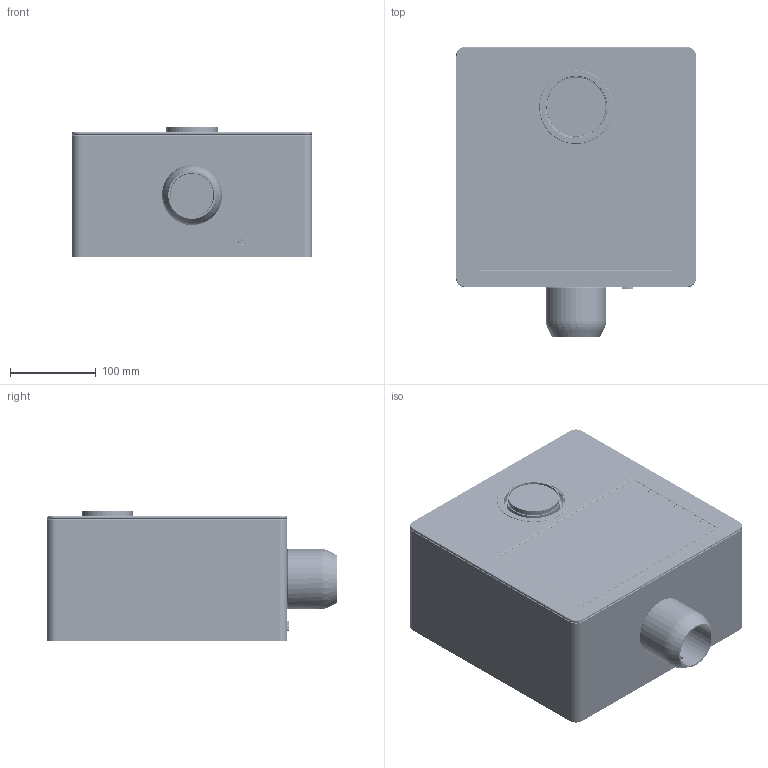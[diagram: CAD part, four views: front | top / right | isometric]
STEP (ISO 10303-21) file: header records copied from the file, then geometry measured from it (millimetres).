
FILE_DESCRIPTION (( 'STEP AP214' ), '1' );
FILE_NAME ('booth-100-000_dslr-10inch.STEP', '2024-09-13T18:04:41', ( '' ), ( '' ), 'SwSTEP 2.0', 'SolidWorks 2024', '' );
FILE_SCHEMA (( 'AUTOMOTIVE_DESIGN' ));
Length unit declared in the file: millimetre
Products named in the file (47): USB-C for REF; 093-104INCH_HDMI-PCBA-0609; PCIe for REF; EN ISO 4762 M3 x 10 - 10N_EN ISO 4762 M3 x 10 - 10N; BAT Header for REF; DIN 912 M3 x 10 --- 10N_DIN 912 M3 x 10 --- 10N; PoE Header for REF; GPIO Header for REF; CAM-DISP for REF; booth-100-000_dslr-10inch; booth-100-110_003; UART for REF; led-ring-5v-rgb-27-38mm_24bit-73-85; USB for REF; 8-101INCH-HDMI-PCBA-20220613_ASM; LED for REF; Canon_Rebel_T3i-mod; FAN Header for REF; booth-300-000; KEY-2X4_5X3_5-618D5DA4; booth-100-000_001_deep; booth-100-000_015; J3_USER_LIBRARY-SM02B-BHSS-1-TB; 101INCH-JYM1015853281BB; Micro HDMI for REF; 101INCH-800X1280-TP; booth-101-000_dslr-10inch; booth-100-000_100; booth-100-000_006_M3-5,7-4,6; Jack carica; 10_1DP-CAPLCD; booth-200-000; booth-100-000_011; SD CARD for REF; 101INCH-LCD-PCBA-FPC; booth-100-000_002; booth-100-000_003_dslr-10inch; RaspberryPi5; PCB_for REF 060923; EVA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
Assembly tree (68 placements, depth 7):
  booth-100-000_dslr-10inch
    booth-101-000_dslr-10inch
      booth-100-000_003_dslr-10inch
      screen_ws-10.1dp-caplcd
        10_1DP-CAPLCD
          8-101INCH-HDMI-PCBA-20220613_ASM
            101INCH-800H_1280V-0428_ASM
              101INCH-JYM1015853281BB
              101INCH-800X1280-TP
            093-104INCH_HDMI-PCBA-0609
            KEY-2X4_5X3_5-618D5DA4
            J3_USER_LIBRARY-SM02B-BHSS-1-TB
            101INCH-LCD-PCBA-FPC
            EVA
        booth-100-000_011
        EN ISO 4762 M3 x 10 - 10N_EN ISO 4762 M3 x 10 - 10N  x4
        EN ISO 4762 M3 x 6 - 6N_EN ISO 4762 M3 x 6 - 6N  x4
      booth-100-120
        Canon_Rebel_T3i-mod
        booth-100-000_100
        DIN 912 M3 x 10 --- 10N_DIN 912 M3 x 10 --- 10N  x4
      booth-100-110_003
      led-ring-5v-rgb-27-38mm_24bit-73-85
      RaspberryPi5
        PCB_for REF 060923
        GPIO Header for REF
        Micro HDMI for REF  x2
        SD CARD for REF
        USB-C for REF
        RJ45 for REF
        USB for REF  x2
        PCIe for REF
        CAM-DISP for REF  x2
        LED for REF
        BAT Header for REF
        PoE Header for REF
        FAN Header for REF
        SWITCH for REF
        UART for REF
      booth-100-000_006_M3-5,7-4,6  x4
    booth-200-000
      booth-100-000_001_deep
      Jack carica
      DIN 912 M3 x 16 --- 16N_DIN 912 M3 x 16 --- 16N  x8
    booth-300-000
      booth-100-000_002
    booth-100-000_015
Bounding box: 280 x 338 x 151.17 mm (x, y, z)
Volume: 2316628.3 mm3; surface area: 1037900.4 mm2
Topology: 92 solids, 196 shells, 12834 faces, 34767 edges, 22742 vertices
Faces by surface type: plane 8553, cylinder 3712, cone 250, torus 154, bspline 137, sphere 28
Entity records: 380416 total; most frequent: CARTESIAN_POINT 82497, ORIENTED_EDGE 63284, DIRECTION 58665, EDGE_CURVE 31644, VECTOR 22293, LINE 22293, VERTEX_POINT 20796, AXIS2_PLACEMENT_3D 18186
